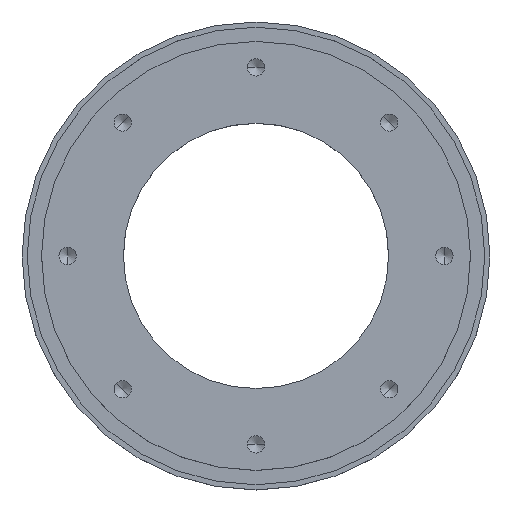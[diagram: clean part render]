
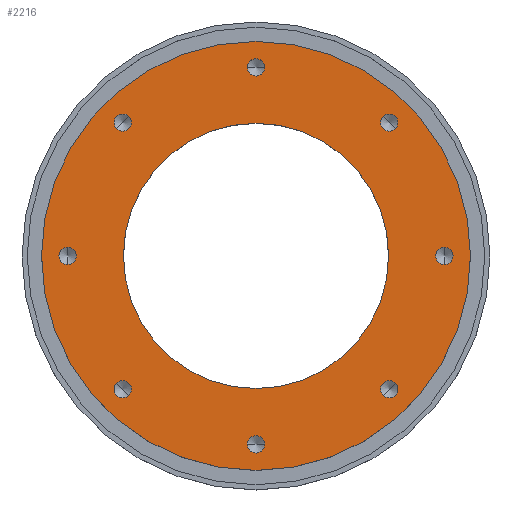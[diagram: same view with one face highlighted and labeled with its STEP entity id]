
A CAD part, top view. The second image highlights one B-rep face of the part: STEP entity #2216.
In plain terms, the highlighted planar face has unit normal (0, 0, 1).
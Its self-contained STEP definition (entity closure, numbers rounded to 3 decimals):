
#242=CARTESIAN_POINT('',(-82.5,0.,25.0));
#243=VERTEX_POINT('',#242);
#259=CARTESIAN_POINT('',(82.5,0.,25.0));
#260=VERTEX_POINT('',#259);
#267=CARTESIAN_POINT('',(0.0,0.0,25.0));
#268=DIRECTION('',(0.0,0.0,-1.0));
#269=DIRECTION('',(-1.0,0.0,0.0));
#270=AXIS2_PLACEMENT_3D('',#267,#268,#269);
#271=CIRCLE('',#270,82.5);
#272=EDGE_CURVE('',#260,#243,#271,.T.);
#284=CARTESIAN_POINT('',(-51.,0.,25.0));
#285=VERTEX_POINT('',#284);
#301=CARTESIAN_POINT('',(51.,0.,25.0));
#302=VERTEX_POINT('',#301);
#309=CARTESIAN_POINT('',(0.,0.,25.0));
#310=DIRECTION('',(0.0,0.0,-1.0));
#311=DIRECTION('',(-1.0,0.0,0.0));
#312=AXIS2_PLACEMENT_3D('',#309,#310,#311);
#313=CIRCLE('',#312,51.);
#314=EDGE_CURVE('',#285,#302,#313,.T.);
#535=CARTESIAN_POINT('',(3.324,72.5,25.0));
#536=VERTEX_POINT('',#535);
#552=CARTESIAN_POINT('',(-3.324,72.5,25.0));
#553=VERTEX_POINT('',#552);
#560=CARTESIAN_POINT('',(0.0,72.5,25.0));
#561=DIRECTION('',(0.0,0.0,-1.0));
#562=DIRECTION('',(1.0,0.0,0.0));
#563=AXIS2_PLACEMENT_3D('',#560,#561,#562);
#564=CIRCLE('',#563,3.324);
#565=EDGE_CURVE('',#536,#553,#564,.T.);
#648=CARTESIAN_POINT('',(53.615,48.915,25.0));
#649=VERTEX_POINT('',#648);
#665=CARTESIAN_POINT('',(48.915,53.615,25.0));
#666=VERTEX_POINT('',#665);
#673=CARTESIAN_POINT('',(51.265,51.265,25.0));
#674=DIRECTION('',(0.,0.,-1.0));
#675=DIRECTION('',(0.707,-0.707,0.));
#676=AXIS2_PLACEMENT_3D('',#673,#674,#675);
#677=CIRCLE('',#676,3.324);
#678=EDGE_CURVE('',#649,#666,#677,.T.);
#761=CARTESIAN_POINT('',(72.5,-3.323,25.0));
#762=VERTEX_POINT('',#761);
#778=CARTESIAN_POINT('',(72.5,3.324,25.0));
#779=VERTEX_POINT('',#778);
#786=CARTESIAN_POINT('',(72.5,0.,25.0));
#787=DIRECTION('',(0.0,0.0,-1.0));
#788=DIRECTION('',(0.0,-1.0,0.0));
#789=AXIS2_PLACEMENT_3D('',#786,#787,#788);
#790=CIRCLE('',#789,3.324);
#791=EDGE_CURVE('',#762,#779,#790,.T.);
#874=CARTESIAN_POINT('',(48.915,-53.615,25.0));
#875=VERTEX_POINT('',#874);
#891=CARTESIAN_POINT('',(53.615,-48.915,25.0));
#892=VERTEX_POINT('',#891);
#899=CARTESIAN_POINT('',(51.265,-51.265,25.0));
#900=DIRECTION('',(0.,0.,-1.0));
#901=DIRECTION('',(-0.707,-0.707,0.));
#902=AXIS2_PLACEMENT_3D('',#899,#900,#901);
#903=CIRCLE('',#902,3.324);
#904=EDGE_CURVE('',#875,#892,#903,.T.);
#987=CARTESIAN_POINT('',(-3.323,-72.5,25.0));
#988=VERTEX_POINT('',#987);
#1004=CARTESIAN_POINT('',(3.324,-72.5,25.0));
#1005=VERTEX_POINT('',#1004);
#1012=CARTESIAN_POINT('',(0.,-72.5,25.0));
#1013=DIRECTION('',(0.0,0.0,-1.0));
#1014=DIRECTION('',(-1.0,0.0,0.0));
#1015=AXIS2_PLACEMENT_3D('',#1012,#1013,#1014);
#1016=CIRCLE('',#1015,3.324);
#1017=EDGE_CURVE('',#988,#1005,#1016,.T.);
#1100=CARTESIAN_POINT('',(-53.615,-48.915,25.));
#1101=VERTEX_POINT('',#1100);
#1117=CARTESIAN_POINT('',(-48.915,-53.615,25.));
#1118=VERTEX_POINT('',#1117);
#1125=CARTESIAN_POINT('',(-51.265,-51.265,25.));
#1126=DIRECTION('',(0.,0.,-1.));
#1127=DIRECTION('',(-0.707,0.707,0.));
#1128=AXIS2_PLACEMENT_3D('',#1125,#1126,#1127);
#1129=CIRCLE('',#1128,3.324);
#1130=EDGE_CURVE('',#1101,#1118,#1129,.T.);
#1213=CARTESIAN_POINT('',(-72.5,3.323,25.0));
#1214=VERTEX_POINT('',#1213);
#1230=CARTESIAN_POINT('',(-72.5,-3.324,25.0));
#1231=VERTEX_POINT('',#1230);
#1238=CARTESIAN_POINT('',(-72.5,0.,25.0));
#1239=DIRECTION('',(0.0,0.0,-1.0));
#1240=DIRECTION('',(0.0,1.0,0.0));
#1241=AXIS2_PLACEMENT_3D('',#1238,#1239,#1240);
#1242=CIRCLE('',#1241,3.324);
#1243=EDGE_CURVE('',#1214,#1231,#1242,.T.);
#1326=CARTESIAN_POINT('',(-48.915,53.615,25.0));
#1327=VERTEX_POINT('',#1326);
#1343=CARTESIAN_POINT('',(-53.615,48.915,25.0));
#1344=VERTEX_POINT('',#1343);
#1351=CARTESIAN_POINT('',(-51.265,51.265,25.0));
#1352=DIRECTION('',(0.,0.,-1.0));
#1353=DIRECTION('',(0.707,0.707,0.));
#1354=AXIS2_PLACEMENT_3D('',#1351,#1352,#1353);
#1355=CIRCLE('',#1354,3.324);
#1356=EDGE_CURVE('',#1327,#1344,#1355,.T.);
#1470=CARTESIAN_POINT('',(-51.265,51.265,25.0));
#1471=DIRECTION('',(0.,0.,-1.0));
#1472=DIRECTION('',(0.707,0.707,0.));
#1473=AXIS2_PLACEMENT_3D('',#1470,#1471,#1472);
#1474=CIRCLE('',#1473,3.324);
#1475=EDGE_CURVE('',#1344,#1327,#1474,.T.);
#1541=CARTESIAN_POINT('',(-72.5,0.,25.0));
#1542=DIRECTION('',(0.0,0.0,-1.0));
#1543=DIRECTION('',(0.0,1.0,0.0));
#1544=AXIS2_PLACEMENT_3D('',#1541,#1542,#1543);
#1545=CIRCLE('',#1544,3.324);
#1546=EDGE_CURVE('',#1231,#1214,#1545,.T.);
#1612=CARTESIAN_POINT('',(-51.265,-51.265,25.));
#1613=DIRECTION('',(0.,0.,-1.));
#1614=DIRECTION('',(-0.707,0.707,0.));
#1615=AXIS2_PLACEMENT_3D('',#1612,#1613,#1614);
#1616=CIRCLE('',#1615,3.324);
#1617=EDGE_CURVE('',#1118,#1101,#1616,.T.);
#1683=CARTESIAN_POINT('',(0.,-72.5,25.0));
#1684=DIRECTION('',(0.0,0.0,-1.0));
#1685=DIRECTION('',(-1.0,0.0,0.0));
#1686=AXIS2_PLACEMENT_3D('',#1683,#1684,#1685);
#1687=CIRCLE('',#1686,3.324);
#1688=EDGE_CURVE('',#1005,#988,#1687,.T.);
#1754=CARTESIAN_POINT('',(51.265,-51.265,25.0));
#1755=DIRECTION('',(0.,0.,-1.0));
#1756=DIRECTION('',(-0.707,-0.707,0.));
#1757=AXIS2_PLACEMENT_3D('',#1754,#1755,#1756);
#1758=CIRCLE('',#1757,3.324);
#1759=EDGE_CURVE('',#892,#875,#1758,.T.);
#1825=CARTESIAN_POINT('',(72.5,0.,25.0));
#1826=DIRECTION('',(0.0,0.0,-1.0));
#1827=DIRECTION('',(0.0,-1.0,0.0));
#1828=AXIS2_PLACEMENT_3D('',#1825,#1826,#1827);
#1829=CIRCLE('',#1828,3.324);
#1830=EDGE_CURVE('',#779,#762,#1829,.T.);
#1896=CARTESIAN_POINT('',(51.265,51.265,25.0));
#1897=DIRECTION('',(0.,0.,-1.0));
#1898=DIRECTION('',(0.707,-0.707,0.));
#1899=AXIS2_PLACEMENT_3D('',#1896,#1897,#1898);
#1900=CIRCLE('',#1899,3.324);
#1901=EDGE_CURVE('',#666,#649,#1900,.T.);
#1967=CARTESIAN_POINT('',(0.0,72.5,25.0));
#1968=DIRECTION('',(0.0,0.0,-1.0));
#1969=DIRECTION('',(1.0,0.0,0.0));
#1970=AXIS2_PLACEMENT_3D('',#1967,#1968,#1969);
#1971=CIRCLE('',#1970,3.324);
#1972=EDGE_CURVE('',#553,#536,#1971,.T.);
#2135=CARTESIAN_POINT('',(0.,0.,25.0));
#2136=DIRECTION('',(0.0,0.0,-1.0));
#2137=DIRECTION('',(-1.0,0.0,0.0));
#2138=AXIS2_PLACEMENT_3D('',#2135,#2136,#2137);
#2139=CIRCLE('',#2138,51.);
#2140=EDGE_CURVE('',#302,#285,#2139,.T.);
#2159=CARTESIAN_POINT('',(0.0,0.0,25.0));
#2160=DIRECTION('',(0.0,0.0,-1.0));
#2161=DIRECTION('',(-1.0,0.0,0.0));
#2162=AXIS2_PLACEMENT_3D('',#2159,#2160,#2161);
#2163=CIRCLE('',#2162,82.5);
#2164=EDGE_CURVE('',#243,#260,#2163,.T.);
#2171=CARTESIAN_POINT('',(7.5,0.,25.0));
#2172=DIRECTION('',(0.0,0.0,1.0));
#2173=DIRECTION('',(1.0,0.0,0.0));
#2174=AXIS2_PLACEMENT_3D('',#2171,#2172,#2173);
#2175=PLANE('',#2174);
#2176=ORIENTED_EDGE('',*,*,#272,.F.);
#2177=ORIENTED_EDGE('',*,*,#2164,.F.);
#2178=EDGE_LOOP('',(#2176,#2177));
#2179=FACE_OUTER_BOUND('',#2178,.T.);
#2180=ORIENTED_EDGE('',*,*,#1356,.T.);
#2181=ORIENTED_EDGE('',*,*,#1475,.T.);
#2182=EDGE_LOOP('',(#2180,#2181));
#2183=FACE_BOUND('',#2182,.T.);
#2184=ORIENTED_EDGE('',*,*,#1243,.T.);
#2185=ORIENTED_EDGE('',*,*,#1546,.T.);
#2186=EDGE_LOOP('',(#2184,#2185));
#2187=FACE_BOUND('',#2186,.T.);
#2188=ORIENTED_EDGE('',*,*,#1130,.T.);
#2189=ORIENTED_EDGE('',*,*,#1617,.T.);
#2190=EDGE_LOOP('',(#2188,#2189));
#2191=FACE_BOUND('',#2190,.T.);
#2192=ORIENTED_EDGE('',*,*,#1017,.T.);
#2193=ORIENTED_EDGE('',*,*,#1688,.T.);
#2194=EDGE_LOOP('',(#2192,#2193));
#2195=FACE_BOUND('',#2194,.T.);
#2196=ORIENTED_EDGE('',*,*,#904,.T.);
#2197=ORIENTED_EDGE('',*,*,#1759,.T.);
#2198=EDGE_LOOP('',(#2196,#2197));
#2199=FACE_BOUND('',#2198,.T.);
#2200=ORIENTED_EDGE('',*,*,#791,.T.);
#2201=ORIENTED_EDGE('',*,*,#1830,.T.);
#2202=EDGE_LOOP('',(#2200,#2201));
#2203=FACE_BOUND('',#2202,.T.);
#2204=ORIENTED_EDGE('',*,*,#678,.T.);
#2205=ORIENTED_EDGE('',*,*,#1901,.T.);
#2206=EDGE_LOOP('',(#2204,#2205));
#2207=FACE_BOUND('',#2206,.T.);
#2208=ORIENTED_EDGE('',*,*,#565,.T.);
#2209=ORIENTED_EDGE('',*,*,#1972,.T.);
#2210=EDGE_LOOP('',(#2208,#2209));
#2211=FACE_BOUND('',#2210,.T.);
#2212=ORIENTED_EDGE('',*,*,#2140,.T.);
#2213=ORIENTED_EDGE('',*,*,#314,.T.);
#2214=EDGE_LOOP('',(#2212,#2213));
#2215=FACE_BOUND('',#2214,.T.);
#2216=ADVANCED_FACE('',(#2179,#2183,#2187,#2191,#2195,#2199,#2203,#2207,#2211,#2215),#2175,.T.);
